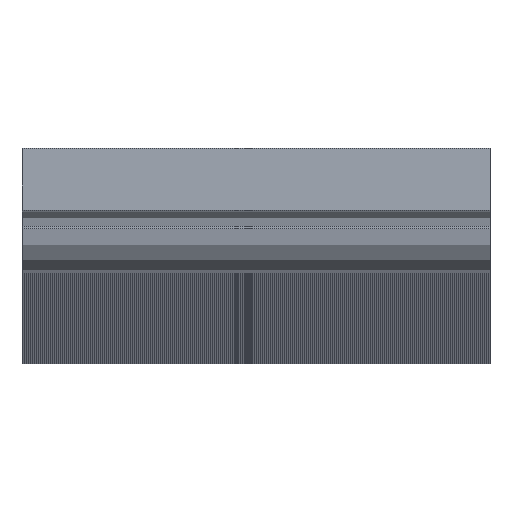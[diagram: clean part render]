
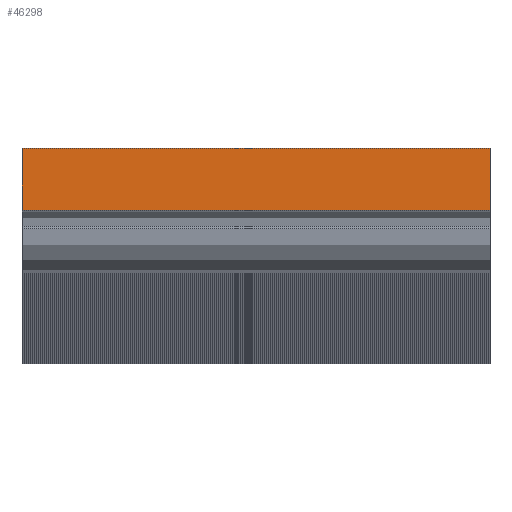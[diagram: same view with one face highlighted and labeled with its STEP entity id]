
A CAD part, top view. The second image highlights one B-rep face of the part: STEP entity #46298.
In plain terms, the highlighted planar face has unit normal (0, 0, 1).
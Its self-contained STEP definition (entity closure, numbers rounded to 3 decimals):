
#4040=FACE_OUTER_BOUND('',#6370,.T.);
#6370=EDGE_LOOP('',(#28996,#28997,#28998,#28999));
#8700=LINE('',#67991,#13028);
#8701=LINE('',#67993,#13029);
#8702=LINE('',#67995,#13030);
#8703=LINE('',#67996,#13031);
#13028=VECTOR('',#53657,1000.);
#13029=VECTOR('',#53658,1000.);
#13030=VECTOR('',#53659,1000.);
#13031=VECTOR('',#53660,1000.);
#17356=VERTEX_POINT('',#67989);
#17357=VERTEX_POINT('',#67990);
#17358=VERTEX_POINT('',#67992);
#17359=VERTEX_POINT('',#67994);
#22012=EDGE_CURVE('',#17356,#17357,#8700,.T.);
#22013=EDGE_CURVE('',#17358,#17357,#8701,.T.);
#22014=EDGE_CURVE('',#17358,#17359,#8702,.T.);
#22015=EDGE_CURVE('',#17359,#17356,#8703,.T.);
#28996=ORIENTED_EDGE('',*,*,#22012,.T.);
#28997=ORIENTED_EDGE('',*,*,#22013,.F.);
#28998=ORIENTED_EDGE('',*,*,#22014,.T.);
#28999=ORIENTED_EDGE('',*,*,#22015,.T.);
#42964=PLANE('',#48651);
#46298=ADVANCED_FACE('',(#4040),#42964,.T.);
#48651=AXIS2_PLACEMENT_3D('',#67988,#53655,#53656);
#53655=DIRECTION('center_axis',(0.,0.,1.));
#53656=DIRECTION('ref_axis',(1.,0.,0.));
#53657=DIRECTION('',(0.,-1.,0.));
#53658=DIRECTION('',(-1.,0.,0.));
#53659=DIRECTION('',(0.,1.,0.));
#53660=DIRECTION('',(-1.,0.,0.));
#67988=CARTESIAN_POINT('Origin',(0.,0.,990.));
#67989=CARTESIAN_POINT('',(-7.5,0.,990.));
#67990=CARTESIAN_POINT('',(-7.5,-1.19,990.));
#67991=CARTESIAN_POINT('',(-7.5,0.,990.));
#67992=CARTESIAN_POINT('',(1.5,-1.19,990.));
#67993=CARTESIAN_POINT('',(7.5,-1.19,990.));
#67994=CARTESIAN_POINT('',(1.5,0.,990.));
#67995=CARTESIAN_POINT('',(1.5,-2.4,990.));
#67996=CARTESIAN_POINT('',(7.5,0.,990.));
